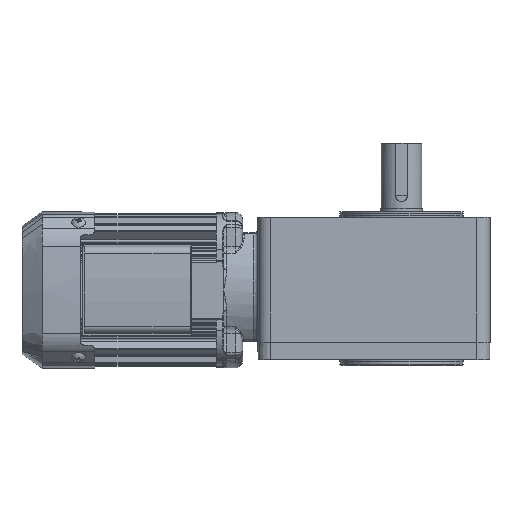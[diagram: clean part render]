
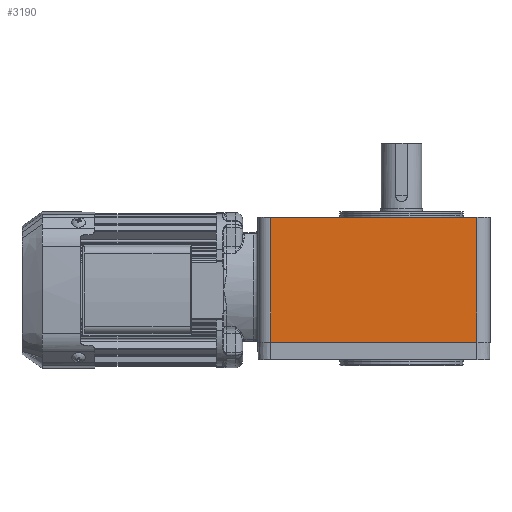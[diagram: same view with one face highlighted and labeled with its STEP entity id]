
A CAD part, top view. The second image highlights one B-rep face of the part: STEP entity #3190.
In plain terms, the highlighted planar face has unit normal (0, 0, 1).
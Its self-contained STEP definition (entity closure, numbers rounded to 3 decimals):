
#3190 = ADVANCED_FACE( '', ( #6910 ), #6911, .T. );
#6910 = FACE_OUTER_BOUND( '', #15997, .T. );
#6911 = PLANE( '', #15998 );
#15997 = EDGE_LOOP( '', ( #28361, #28362, #28363, #28364 ) );
#15998 = AXIS2_PLACEMENT_3D( '', #28365, #28366, #28367 );
#28361 = ORIENTED_EDGE( '', *, *, #35307, .F. );
#28362 = ORIENTED_EDGE( '', *, *, #34090, .T. );
#28363 = ORIENTED_EDGE( '', *, *, #35308, .T. );
#28364 = ORIENTED_EDGE( '', *, *, #35309, .T. );
#28365 = CARTESIAN_POINT( '', ( 149.732, -4.188, 135.066 ) );
#28366 = DIRECTION( '', ( 0., 0., 1. ) );
#28367 = DIRECTION( '', ( 1., 0., 0. ) );
#34090 = EDGE_CURVE( '', #40096, #40094, #40097, .T. );
#35307 = EDGE_CURVE( '', #40096, #41693, #41694, .T. );
#35308 = EDGE_CURVE( '', #40094, #41695, #41696, .T. );
#35309 = EDGE_CURVE( '', #41695, #41693, #41697, .T. );
#40094 = VERTEX_POINT( '', #50454 );
#40096 = VERTEX_POINT( '', #50456 );
#40097 = LINE( '', #50457, #50458 );
#41693 = VERTEX_POINT( '', #53733 );
#41694 = LINE( '', #53734, #53735 );
#41695 = VERTEX_POINT( '', #53736 );
#41696 = LINE( '', #53737, #53738 );
#41697 = LINE( '', #53739, #53740 );
#50454 = CARTESIAN_POINT( '', ( 7.732, -4.688, 135.066 ) );
#50456 = CARTESIAN_POINT( '', ( 149.732, -4.688, 135.066 ) );
#50457 = CARTESIAN_POINT( '', ( 149.732, -4.688, 135.066 ) );
#50458 = VECTOR( '', #58616, 1000. );
#53733 = CARTESIAN_POINT( '', ( 149.732, -90.688, 135.066 ) );
#53734 = CARTESIAN_POINT( '', ( 149.732, -4.188, 135.066 ) );
#53735 = VECTOR( '', #60135, 1000. );
#53736 = CARTESIAN_POINT( '', ( 7.732, -90.688, 135.066 ) );
#53737 = CARTESIAN_POINT( '', ( 7.732, -4.188, 135.066 ) );
#53738 = VECTOR( '', #60136, 1000. );
#53739 = CARTESIAN_POINT( '', ( 149.732, -90.688, 135.066 ) );
#53740 = VECTOR( '', #60137, 1000. );
#58616 = DIRECTION( '', ( -1., 0., 0. ) );
#60135 = DIRECTION( '', ( 0., -1., 0. ) );
#60136 = DIRECTION( '', ( 0., -1., 0. ) );
#60137 = DIRECTION( '', ( 1., 0., 0. ) );
